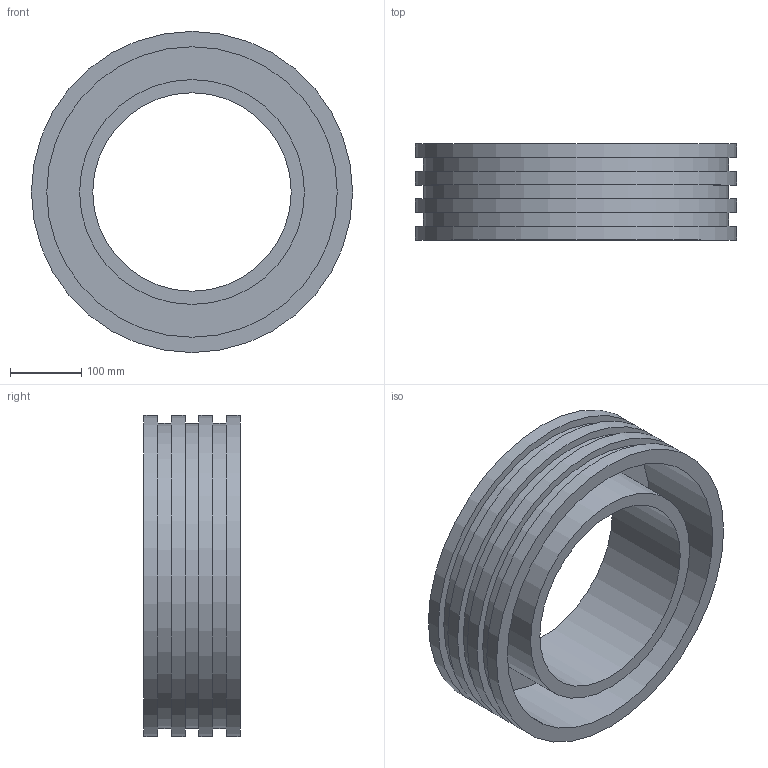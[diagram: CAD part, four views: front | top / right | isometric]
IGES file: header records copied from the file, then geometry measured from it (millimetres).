
Global section: file name: 37020315.ipt; native system: Autodesk Inventor 2015; preprocessor: unknown; author: Кирилл,,11,0; organization: 20170830.190241; date: 20171106.093317; units: millimetre
Bounding box: 450 x 135 x 450 mm (x, y, z)
Volume: 5839529.7 mm3; surface area: 878733.9 mm2
Topology: 1 solids, 1 shells, 20 faces, 34 edges, 24 vertices
Faces by surface type: plane 10, cylinder 8, revolution 2
Full cylindrical faces by diameter (mm): 315 x1, 427.5 x3, 450 x4
